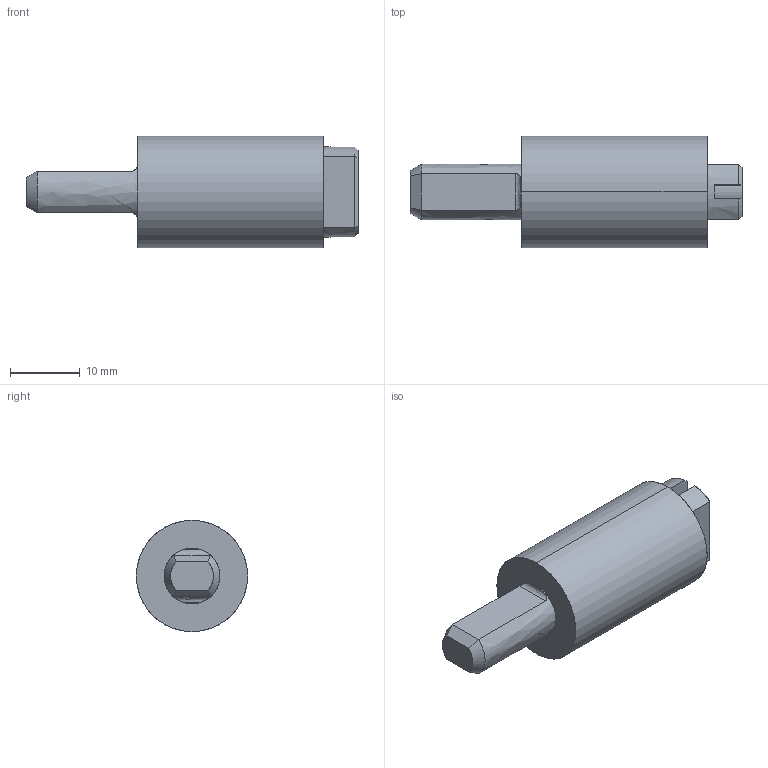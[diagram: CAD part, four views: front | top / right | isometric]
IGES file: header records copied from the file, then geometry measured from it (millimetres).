
Start section: SolidWorks IGES file using analytic representation for surfaces
Global section: file name: Z:\7-3D図面\01.図面\02.R\R・D外形図提出用\FYN-B1.IGS; native system: SolidWorks 2016; preprocessor: SolidWorks 2016; author: flgijutsu02; date: 160405.173301; units: millimetre
Bounding box: 47.7 x 16 x 16 mm (x, y, z)
Surface area: 2340.2 mm2 (no closed solid volume)
Topology: 0 solids, 0 shells, 38 faces, 352 edges, 352 vertices
Faces by surface type: bspline 20, revolution 18
